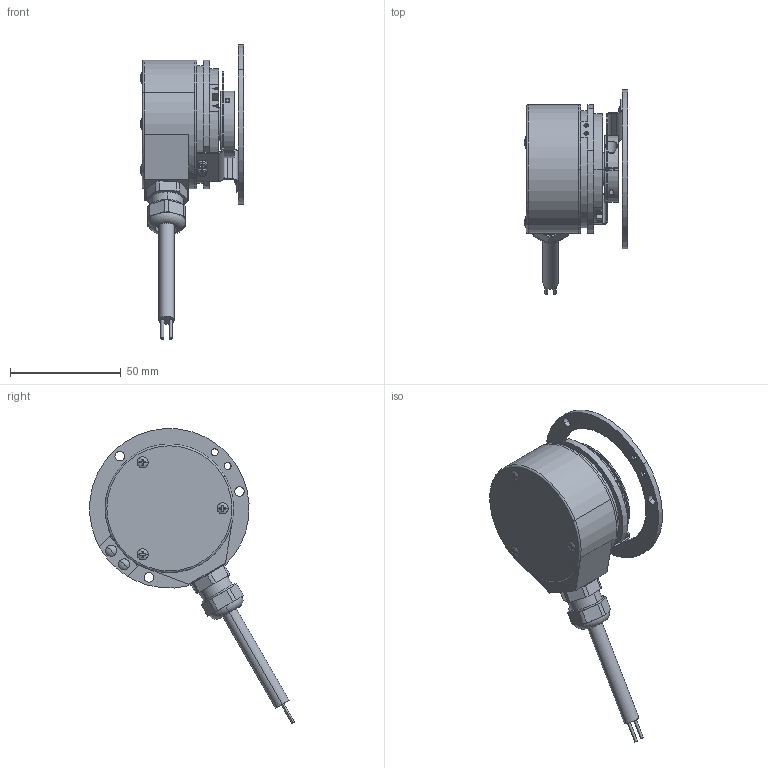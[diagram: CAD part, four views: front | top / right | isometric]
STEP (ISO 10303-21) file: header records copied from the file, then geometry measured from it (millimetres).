
FILE_DESCRIPTION (( 'STEP AP203' ), '1' );
FILE_NAME ('8.5824.48X1.XXXX.STEP', '2011-12-16T09:31:11', ( 'Hodot' ), ( 'Kuebler' ), 'SwSTEP 2.0', 'SolidWorks 2009', '' );
FILE_SCHEMA (( 'CONFIG_CONTROL_DESIGN' ));
Length unit declared in the file: millimetre
Products named in the file (1): 8.5824.48X1.XXXX
Bounding box: 46.58 x 92.3 x 132.91 mm (x, y, z)
Volume: 58373.7 mm3; surface area: 45031.8 mm2
Topology: 20 solids, 20 shells, 615 faces, 1470 edges, 912 vertices
Faces by surface type: cylinder 228, plane 223, cone 108, torus 46, sphere 10
Entity records: 18181 total; most frequent: CARTESIAN_POINT 3478, DIRECTION 3282, ORIENTED_EDGE 2880, EDGE_CURVE 1440, AXIS2_PLACEMENT_3D 1294, VERTEX_POINT 912, EDGE_LOOP 712, VECTOR 694
